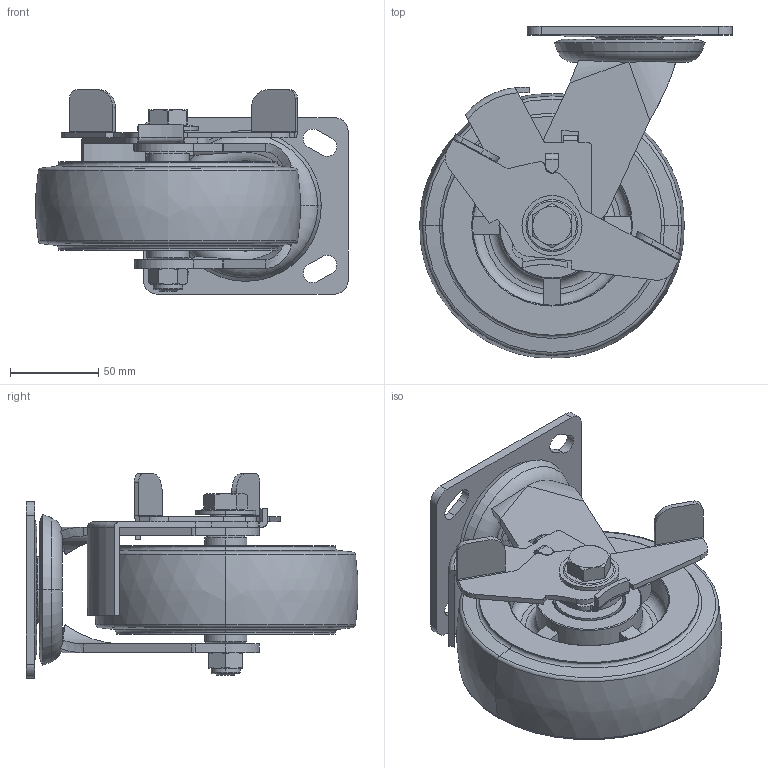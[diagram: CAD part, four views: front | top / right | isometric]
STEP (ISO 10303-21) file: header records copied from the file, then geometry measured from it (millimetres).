
FILE_DESCRIPTION((''),'2;1');
FILE_NAME('S75726C_ASM','2026-07-31T',('Lenovo'),(''),'PRO/ENGINEER BY PARAMETRIC TECHNOLOGY CORPORATION, 2010280','PRO/ENGINEER BY PARAMETRIC TECHNOLOGY CORPORATION, 2010280','');
FILE_SCHEMA(('CONFIG_CONTROL_DESIGN'));
Length unit declared in the file: millimetre
Products named in the file (14): S7506-353; S7570-201; S7500-211; 736-986; 6203; 700-67; 700-54; 736-86_ASM; 7310-020C; 700-34; S7576-503; C7416-502; S7570-047; S75726C_ASM
Assembly tree (15 placements, depth 3):
  S75726C_ASM
    S7506-353
    S7570-201
    S7500-211
    736-86_ASM
      736-986
      6203  x2
      700-67  x2
      700-54
    7310-020C
    700-34
    S7576-503
    C7416-502
    S7570-047
Bounding box: 176.83 x 187.83 x 115.71 mm (x, y, z)
Volume: 887466.9 mm3; surface area: 201255.6 mm2
Topology: 41 solids, 41 shells, 675 faces, 1677 edges, 1018 vertices
Faces by surface type: plane 312, cylinder 161, torus 90, cone 54, sphere 48, bspline 10
Entity records: 18898 total; most frequent: CARTESIAN_POINT 4055, DIRECTION 3141, ORIENTED_EDGE 2946, EDGE_CURVE 1473, AXIS2_PLACEMENT_3D 1144, VERTEX_POINT 944, VECTOR 853, LINE 853
